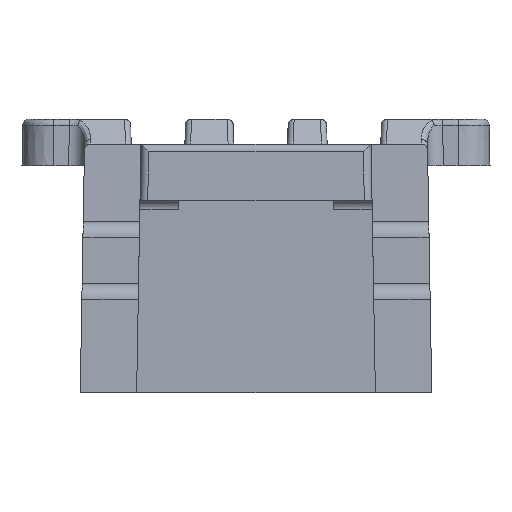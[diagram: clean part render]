
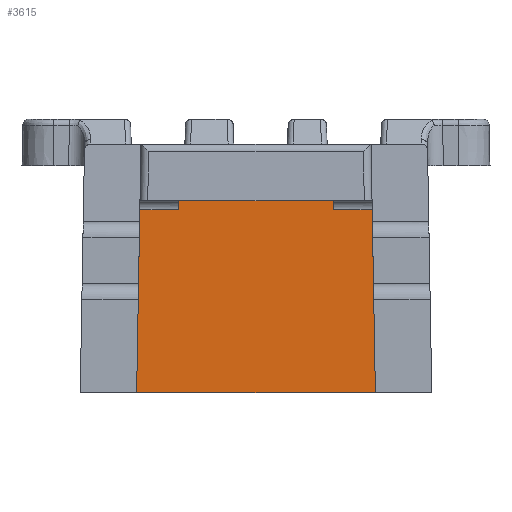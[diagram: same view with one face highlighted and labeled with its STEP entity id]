
A CAD part, left-side view. The second image highlights one B-rep face of the part: STEP entity #3615.
In plain terms, the highlighted planar face has unit normal (-1, 0, -0.018).
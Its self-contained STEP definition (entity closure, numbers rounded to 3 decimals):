
#108 = CARTESIAN_POINT ( 'NONE',  ( -2.745, 7.437, 5.888 ) ) ;
#118 = VECTOR ( 'NONE', #8506, 1000. ) ;
#255 = VECTOR ( 'NONE', #6249, 1000. ) ;
#453 = EDGE_CURVE ( 'NONE', #4823, #2356, #6202, .T. ) ;
#505 = LINE ( 'NONE', #3541, #4340 ) ;
#532 = DIRECTION ( 'NONE',  ( -1., 0., -0.017 ) ) ;
#568 = EDGE_CURVE ( 'NONE', #8911, #4823, #1952, .T. ) ;
#570 = VECTOR ( 'NONE', #5728, 1000. ) ;
#630 = CARTESIAN_POINT ( 'NONE',  ( -2.7, 7.482, 3.311 ) ) ;
#1280 = ORIENTED_EDGE ( 'NONE', *, *, #568, .T. ) ;
#1295 = LINE ( 'NONE', #8060, #3240 ) ;
#1401 = EDGE_CURVE ( 'NONE', #5249, #3842, #1597, .T. ) ;
#1402 = CARTESIAN_POINT ( 'NONE',  ( -2.75, 1.2, 6.183 ) ) ;
#1422 = CARTESIAN_POINT ( 'NONE',  ( -2.745, 7.432, 5.888 ) ) ;
#1441 = ORIENTED_EDGE ( 'NONE', *, *, #453, .T. ) ;
#1597 = LINE ( 'NONE', #1599, #3974 ) ;
#1599 = CARTESIAN_POINT ( 'NONE',  ( -2.75, 7.432, 6.183 ) ) ;
#1778 = EDGE_CURVE ( 'NONE', #8839, #5263, #4403, .T. ) ;
#1952 = LINE ( 'NONE', #1970, #255 ) ;
#1970 = CARTESIAN_POINT ( 'NONE',  ( -2.745, 7.432, 5.888 ) ) ;
#2346 = EDGE_CURVE ( 'NONE', #4512, #7179, #7522, .T. ) ;
#2356 = VERTEX_POINT ( 'NONE', #630 ) ;
#2693 = ORIENTED_EDGE ( 'NONE', *, *, #9181, .T. ) ;
#2832 = ORIENTED_EDGE ( 'NONE', *, *, #1778, .T. ) ;
#2897 = CARTESIAN_POINT ( 'NONE',  ( -2.7, -0.082, 3.311 ) ) ;
#2912 = ORIENTED_EDGE ( 'NONE', *, *, #1401, .T. ) ;
#3080 = DIRECTION ( 'NONE',  ( -0.017, 0.017, 1. ) ) ;
#3176 = VERTEX_POINT ( 'NONE', #5475 ) ;
#3240 = VECTOR ( 'NONE', #3080, 1000. ) ;
#3541 = CARTESIAN_POINT ( 'NONE',  ( -2.75, 1.2, 6.183 ) ) ;
#3615 = ADVANCED_FACE ( 'NONE', ( #6464 ), #8405, .T. ) ;
#3761 = CARTESIAN_POINT ( 'NONE',  ( -2.75, 6.2, 6.183 ) ) ;
#3842 = VERTEX_POINT ( 'NONE', #3761 ) ;
#3961 = DIRECTION ( 'NONE',  ( 0.017, 0.017, -1. ) ) ;
#3974 = VECTOR ( 'NONE', #7331, 1000. ) ;
#4220 = CARTESIAN_POINT ( 'NONE',  ( -2.642, 0., 0. ) ) ;
#4287 = CARTESIAN_POINT ( 'NONE',  ( -2.7, 7.482, 3.311 ) ) ;
#4314 = CARTESIAN_POINT ( 'NONE',  ( -2.745, 1.205, 5.888 ) ) ;
#4316 = VECTOR ( 'NONE', #3961, 1000. ) ;
#4340 = VECTOR ( 'NONE', #9187, 1000. ) ;
#4403 = LINE ( 'NONE', #1422, #570 ) ;
#4417 = EDGE_CURVE ( 'NONE', #3176, #8839, #8589, .T. ) ;
#4474 = VECTOR ( 'NONE', #7997, 1000. ) ;
#4512 = VERTEX_POINT ( 'NONE', #8960 ) ;
#4578 = EDGE_LOOP ( 'NONE', ( #8720, #9002, #9168, #2832, #5204, #2912, #5185, #1280, #1441, #2693 ) ) ;
#4624 = CARTESIAN_POINT ( 'NONE',  ( -2.745, 7.437, 5.888 ) ) ;
#4777 = VECTOR ( 'NONE', #7181, 1000. ) ;
#4823 = VERTEX_POINT ( 'NONE', #108 ) ;
#4883 = EDGE_CURVE ( 'NONE', #8911, #3842, #1295, .T. ) ;
#5185 = ORIENTED_EDGE ( 'NONE', *, *, #4883, .F. ) ;
#5201 = EDGE_CURVE ( 'NONE', #5249, #5263, #505, .T. ) ;
#5204 = ORIENTED_EDGE ( 'NONE', *, *, #5201, .F. ) ;
#5249 = VERTEX_POINT ( 'NONE', #1402 ) ;
#5263 = VERTEX_POINT ( 'NONE', #4314 ) ;
#5475 = CARTESIAN_POINT ( 'NONE',  ( -2.7, -0.082, 3.311 ) ) ;
#5546 = DIRECTION ( 'NONE',  ( -0.017, 0., 1. ) ) ;
#5728 = DIRECTION ( 'NONE',  ( 0., 1., 0. ) ) ;
#5847 = CARTESIAN_POINT ( 'NONE',  ( -2.642, -0.14, 0. ) ) ;
#6188 = CARTESIAN_POINT ( 'NONE',  ( -2.745, 6.195, 5.888 ) ) ;
#6189 = AXIS2_PLACEMENT_3D ( 'NONE', #8367, #532, #5546 ) ;
#6202 = LINE ( 'NONE', #4624, #4316 ) ;
#6249 = DIRECTION ( 'NONE',  ( 0., 1., 0. ) ) ;
#6464 = FACE_OUTER_BOUND ( 'NONE', #4578, .T. ) ;
#6818 = LINE ( 'NONE', #5847, #4474 ) ;
#7093 = EDGE_CURVE ( 'NONE', #7179, #3176, #6818, .T. ) ;
#7179 = VERTEX_POINT ( 'NONE', #7383 ) ;
#7181 = DIRECTION ( 'NONE',  ( -0.017, 0.017, 1. ) ) ;
#7331 = DIRECTION ( 'NONE',  ( 0., 1., 0. ) ) ;
#7383 = CARTESIAN_POINT ( 'NONE',  ( -2.642, -0.14, 0. ) ) ;
#7522 = LINE ( 'NONE', #4220, #118 ) ;
#7563 = VECTOR ( 'NONE', #9290, 1000. ) ;
#7997 = DIRECTION ( 'NONE',  ( -0.017, 0.017, 1. ) ) ;
#8005 = LINE ( 'NONE', #4287, #7563 ) ;
#8060 = CARTESIAN_POINT ( 'NONE',  ( -2.745, 6.195, 5.888 ) ) ;
#8184 = CARTESIAN_POINT ( 'NONE',  ( -2.745, -0.037, 5.888 ) ) ;
#8367 = CARTESIAN_POINT ( 'NONE',  ( -2.75, 7.432, 6.183 ) ) ;
#8405 = PLANE ( 'NONE',  #6189 ) ;
#8506 = DIRECTION ( 'NONE',  ( 0., -1., 0. ) ) ;
#8589 = LINE ( 'NONE', #2897, #4777 ) ;
#8720 = ORIENTED_EDGE ( 'NONE', *, *, #2346, .T. ) ;
#8839 = VERTEX_POINT ( 'NONE', #8184 ) ;
#8911 = VERTEX_POINT ( 'NONE', #6188 ) ;
#8960 = CARTESIAN_POINT ( 'NONE',  ( -2.642, 7.54, 0. ) ) ;
#9002 = ORIENTED_EDGE ( 'NONE', *, *, #7093, .T. ) ;
#9168 = ORIENTED_EDGE ( 'NONE', *, *, #4417, .T. ) ;
#9181 = EDGE_CURVE ( 'NONE', #2356, #4512, #8005, .T. ) ;
#9187 = DIRECTION ( 'NONE',  ( 0.017, 0.017, -1. ) ) ;
#9290 = DIRECTION ( 'NONE',  ( 0.017, 0.017, -1. ) ) ;
